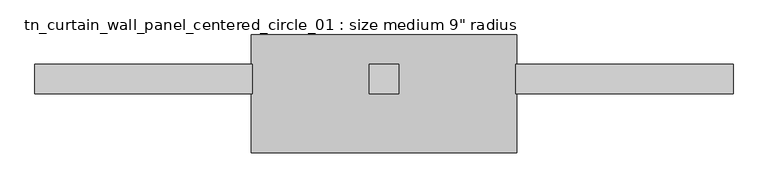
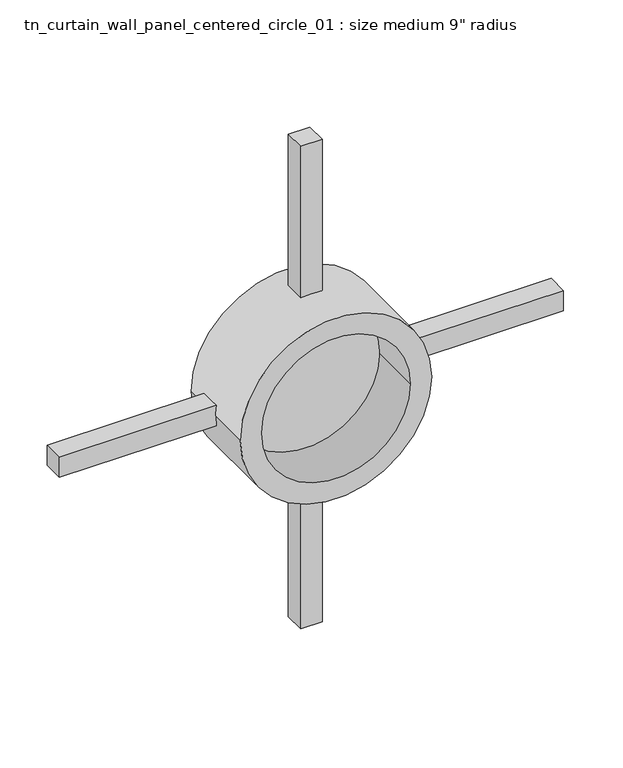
"""IFC4 building model written with IfcOpenShell, lengths in millimetres: plate geometry."""

from ifc_helpers import new_model, si_unit, point, frame, frame_2d, origin, place, context, project, spatial, polyline, circle_curve, trimmed, segment, composite_curve, outline, extrude, source, transform, mapped, element, save
from ifc_brep_helpers import plane_surface, cylinder_surface, revolved_surface, advanced_brep


def plate_38922176(model_context):
    return source(origin(), model_context, "Body", "SolidModel", [
        extrude(outline(composite_curve([segment(trimmed(circle_curve(frame_2d((609.6, 0.0)), 177.8), [point((609.6, -177.8))], [point((609.6, 177.8))], False, "CARTESIAN"), True, "CONTINUOUS"), segment(trimmed(circle_curve(frame_2d((609.6, 0.0)), 177.8), [point((609.6, 177.8))], [point((609.6, -177.8))], False, "CARTESIAN"), True, "CONTINUOUS")], self_intersect=False)), frame((0.0, -25.4, 0.0), z_axis=(0.0, 1.0, 0.0), x_axis=(0.0, 0.0, 1.0)), (0.0, 0.0, 1.0), 25.4),
        advanced_brep(
        [(602.0378087, -50.8, 584.2), (602.0378087, -50.8, 635.0), (227.1845065, -50.8, 635.0), (228.6, -50.8, 609.6), (227.1845065, -50.8, 584.2), (-602.0378087, -50.8, 635.0), (-602.0378087, -50.8, 584.2), (-227.1845065, -50.8, 584.2), (-228.6, -50.8, 609.6), (-227.1845065, -50.8, 635.0), (25.4, -50.8, 1219.2), (-25.4, -50.8, 1219.2), (-25.4, -50.8, 836.7845065), (25.4, -50.8, 836.7845065), (-25.4, -50.8, 0.0), (25.4, -50.8, 0.0), (25.4, -50.8, 382.4154935), (-25.4, -50.8, 382.4154935), (602.0378087, 0.0, 635.0), (602.0378087, 0.0, 584.2), (227.1845065, 0.0, 584.2), (228.6, 0.0, 609.6), (227.1845065, 0.0, 635.0), (-602.0378087, 0.0, 584.2), (-602.0378087, 0.0, 635.0), (-227.1845065, 0.0, 635.0), (-228.6, 0.0, 609.6), (-227.1845065, 0.0, 584.2), (-25.4, 0.0, 1219.2), (25.4, 0.0, 1219.2), (25.4, 0.0, 836.7845065), (-25.4, 0.0, 836.7845065), (25.4, 0.0, 0.0), (-25.4, 0.0, 0.0), (-25.4, 0.0, 382.4154935), (25.4, 0.0, 382.4154935), (-228.6, -152.4, 609.6), (228.6, -152.4, 609.6), (-177.8, -152.4, 609.6), (177.8, -152.4, 609.6), (-228.6, 50.8, 609.6), (228.6, 50.8, 609.6), (-177.8, 50.8, 609.6), (177.8, 50.8, 609.6)],
        [
            (0, 1),
            (1, 2),
            (2, 3, circle_curve(frame((0.0, -50.8, 609.6), z_axis=(0.0, 1.0, 0.0), x_axis=(1.0, 0.0, 0.0)), 228.6)),
            (3, 4, circle_curve(frame((0.0, -50.8, 609.6), z_axis=(0.0, 1.0, 0.0), x_axis=(1.0, 0.0, 0.0)), 228.6)),
            (4, 0),
            (5, 6),
            (6, 7),
            (7, 8, circle_curve(frame((0.0, -50.8, 609.6), z_axis=(0.0, 1.0, 0.0), x_axis=(1.0, 0.0, 0.0)), 228.6)),
            (8, 9, circle_curve(frame((0.0, -50.8, 609.6), z_axis=(0.0, 1.0, 0.0), x_axis=(1.0, 0.0, 0.0)), 228.6)),
            (9, 5),
            (10, 11),
            (11, 12),
            (12, 13, circle_curve(frame((0.0, -50.8, 609.6), z_axis=(0.0, 1.0, 0.0), x_axis=(1.0, 0.0, 0.0)), 228.6)),
            (13, 10),
            (14, 15),
            (15, 16),
            (16, 17, circle_curve(frame((0.0, -50.8, 609.6), z_axis=(0.0, 1.0, 0.0), x_axis=(1.0, 0.0, 0.0)), 228.6)),
            (17, 14),
            (18, 19),
            (19, 20),
            (20, 21, circle_curve(frame((0.0, 0.0, 609.6), z_axis=(0.0, -1.0, 0.0), x_axis=(1.0, 0.0, 0.0)), 228.6)),
            (21, 22, circle_curve(frame((0.0, 0.0, 609.6), z_axis=(0.0, -1.0, 0.0), x_axis=(1.0, 0.0, 0.0)), 228.6)),
            (22, 18),
            (23, 24),
            (24, 25),
            (25, 26, circle_curve(frame((0.0, 0.0, 609.6), z_axis=(0.0, -1.0, 0.0), x_axis=(1.0, 0.0, 0.0)), 228.6)),
            (26, 27, circle_curve(frame((0.0, 0.0, 609.6), z_axis=(0.0, -1.0, 0.0), x_axis=(1.0, 0.0, 0.0)), 228.6)),
            (27, 23),
            (28, 29),
            (29, 30),
            (30, 31, circle_curve(frame((0.0, 0.0, 609.6), z_axis=(0.0, -1.0, 0.0), x_axis=(1.0, 0.0, 0.0)), 228.6)),
            (31, 28),
            (32, 33),
            (33, 34),
            (34, 35, circle_curve(frame((0.0, 0.0, 609.6), z_axis=(0.0, -1.0, 0.0), x_axis=(1.0, 0.0, 0.0)), 228.6)),
            (35, 32),
            (19, 0),
            (4, 20),
            (18, 1),
            (22, 2),
            (5, 24),
            (23, 6),
            (27, 7),
            (9, 25),
            (11, 28),
            (31, 12),
            (29, 10),
            (13, 30),
            (33, 14),
            (17, 34),
            (32, 15),
            (35, 16),
            (36, 37, circle_curve(frame((0.0, -152.4, 609.6), z_axis=(0.0, -1.0, 0.0), x_axis=(1.0, 0.0, 0.0)), 228.6)),
            (37, 36, circle_curve(frame((0.0, -152.4, 609.6), z_axis=(0.0, -1.0, 0.0), x_axis=(1.0, 0.0, 0.0)), 228.6)),
            (38, 39, circle_curve(frame((0.0, -152.4, 609.6), z_axis=(0.0, 1.0, 0.0), x_axis=(1.0, 0.0, 0.0)), 177.8)),
            (39, 38, circle_curve(frame((0.0, -152.4, 609.6), z_axis=(0.0, 1.0, 0.0), x_axis=(1.0, 0.0, 0.0)), 177.8)),
            (40, 41, circle_curve(frame((0.0, 50.8, 609.6), z_axis=(0.0, 1.0, 0.0), x_axis=(1.0, 0.0, 0.0)), 228.6)),
            (41, 40, circle_curve(frame((0.0, 50.8, 609.6), z_axis=(0.0, 1.0, 0.0), x_axis=(1.0, 0.0, 0.0)), 228.6)),
            (42, 43, circle_curve(frame((0.0, 50.8, 609.6), z_axis=(0.0, -1.0, 0.0), x_axis=(1.0, 0.0, 0.0)), 177.8)),
            (43, 42, circle_curve(frame((0.0, 50.8, 609.6), z_axis=(0.0, -1.0, 0.0), x_axis=(1.0, 0.0, 0.0)), 177.8)),
            (36, 8),
            (26, 40),
            (41, 21),
            (3, 37),
            (38, 42),
            (43, 39),
        ],
        [
            plane_surface(frame((203.2, -50.8, 635.0), z_axis=(0.0, -1.0, 0.0), x_axis=(0.0, 0.0, -1.0))),
            plane_surface(frame((203.2, 0.0, 635.0), z_axis=(0.0, 1.0, 0.0), x_axis=(0.0, 0.0, 1.0))),
            plane_surface(frame((203.2, -50.8, 584.2), z_axis=(0.0, 0.0, -1.0), x_axis=(0.0, 1.0, 0.0))),
            plane_surface(frame((602.0378087, -50.8, 584.2), z_axis=(1.0, 0.0, 0.0), x_axis=(0.0, 1.0, 0.0))),
            plane_surface(frame((602.0378087, -50.8, 635.0), z_axis=(0.0, 0.0, 1.0), x_axis=(0.0, 1.0, 0.0))),
            plane_surface(frame((-602.0378087, -50.8, 635.0), z_axis=(-1.0, 0.0, 0.0), x_axis=(0.0, 1.0, 0.0))),
            plane_surface(frame((-602.0378087, -50.8, 584.2), z_axis=(0.0, 0.0, -1.0), x_axis=(0.0, 1.0, 0.0))),
            plane_surface(frame((-203.2, -50.8, 635.0), z_axis=(0.0, 0.0, 1.0), x_axis=(0.0, 1.0, 0.0))),
            plane_surface(frame((-25.4, -50.8, 1219.2), z_axis=(-1.0, 0.0, 0.0), x_axis=(0.0, 1.0, 0.0))),
            plane_surface(frame((25.4, -50.8, 812.8), z_axis=(1.0, 0.0, 0.0), x_axis=(0.0, 1.0, 0.0))),
            plane_surface(frame((25.4, -50.8, 1219.2), z_axis=(0.0, 0.0, 1.0), x_axis=(0.0, 1.0, 0.0))),
            plane_surface(frame((-25.4, -50.8, 406.4), z_axis=(-1.0, 0.0, 0.0), x_axis=(0.0, 1.0, 0.0))),
            plane_surface(frame((-25.4, -50.8, 0.0), z_axis=(0.0, 0.0, -1.0), x_axis=(0.0, 1.0, 0.0))),
            plane_surface(frame((25.4, -50.8, 0.0), z_axis=(1.0, 0.0, 0.0), x_axis=(0.0, 1.0, 0.0))),
            plane_surface(frame((228.6, -152.4, 609.6), z_axis=(0.0, -1.0, 0.0), x_axis=(0.0, 0.0, 1.0))),
            plane_surface(frame((228.6, 50.8, 609.6), z_axis=(0.0, 1.0, 0.0), x_axis=(0.0, 0.0, -1.0))),
            cylinder_surface(frame((0.0, 50.8, 609.6), z_axis=(0.0, -1.0, 0.0), x_axis=(1.0, 0.0, 0.0)), 228.6),
            revolved_surface(polyline([(177.8, 50.8, 609.6), (177.8, -152.4, 609.6)]), (0.0, 0.0, 609.6), (0.0, 1.0, 0.0)),
        ],
        [
            (0, [[1, 2, 3, 4, 5]]),
            (0, [[6, 7, 8, 9, 10]]),
            (0, [[11, 12, 13, 14]]),
            (0, [[15, 16, 17, 18]]),
            (1, [[19, 20, 21, 22, 23]]),
            (1, [[24, 25, 26, 27, 28]]),
            (1, [[29, 30, 31, 32]]),
            (1, [[33, 34, 35, 36]]),
            (2, [[37, -5, 38, -20]]),
            (3, [[-1, -37, -19, 39]]),
            (4, [[-39, -23, 40, -2]]),
            (5, [[-6, 41, -24, 42]]),
            (6, [[-42, -28, 43, -7]]),
            (7, [[-41, -10, 44, -25]]),
            (8, [[45, -32, 46, -12]]),
            (9, [[47, -14, 48, -30]]),
            (10, [[-11, -47, -29, -45]]),
            (11, [[49, -18, 50, -34]]),
            (12, [[-15, -49, -33, 51]]),
            (13, [[-51, -36, 52, -16]]),
            (14, [[53, 54], [55, 56]]),
            (15, [[57, 58], [59, 60]]),
            (16, [[-53, 61, -8, -43, -27, 62, -58, 63, -21, -38, -4, 64], [-17, -52, -35, -50]]),
            (16, [[-54, -64, -3, -40, -22, -63, -57, -62, -26, -44, -9, -61], [-13, -46, -31, -48]]),
            (17, [[-55, 65, -60, 66]]),
            (17, [[-56, -66, -59, -65]]),
        ],
    ),
    ])


if __name__ == "__main__":
    model = new_model("IFC4")
    model_context = context("Model", 3, world=origin())
    ifc_project = project(units=[si_unit("LENGTHUNIT", "METRE", prefix="MILLI")], contexts=[model_context])
    site = spatial("IfcSite", under=ifc_project)
    building = spatial("IfcBuilding", under=site)
    placement = place(None, origin())
    plate_shape = plate_38922176(model_context)
    element("IfcPlate", 1, ObjectType="tn_curtain_wall_panel_centered_circle_01 : size medium 9\" radius", at=placement, inside=building, context=model_context, shape_type="MappedRepresentation", body=[
        mapped(plate_shape, transform((0.0, 0.0, 0.0), x_axis=(1.0, 0.0, 0.0), y_axis=(0.0, 1.0, 0.0), z_axis=(0.0, 0.0, 1.0))),
    ])
    save(model, "model.ifc")
